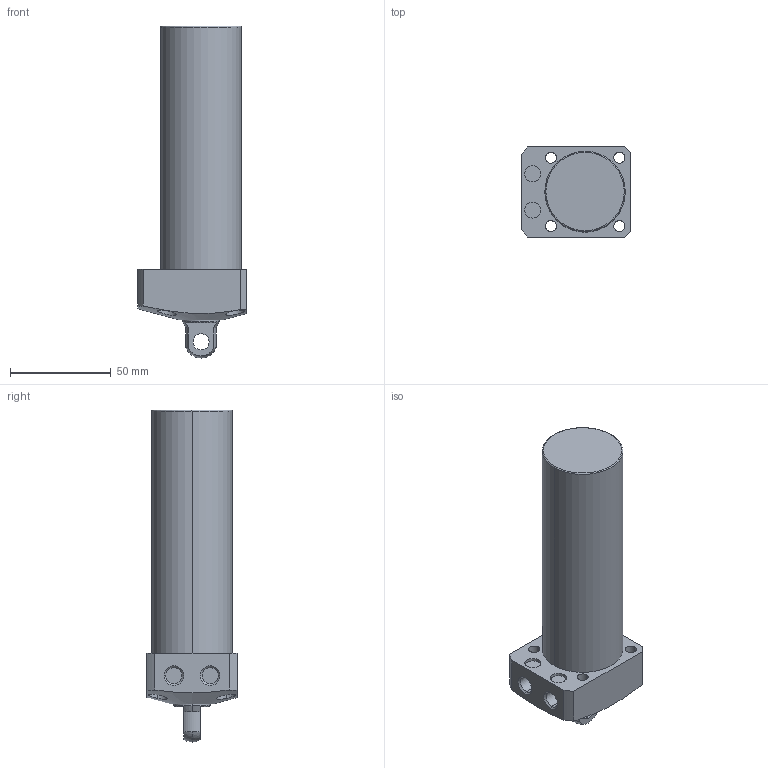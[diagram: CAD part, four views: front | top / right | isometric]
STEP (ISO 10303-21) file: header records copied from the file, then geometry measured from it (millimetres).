
FILE_DESCRIPTION (( 'STEP AP203' ), '1' );
FILE_NAME ('CLL040-CP-095.STEP', '2017-05-17T08:02:19', ( '' ), ( '' ), 'SwSTEP 2.0', 'SolidWorks 2015', '' );
FILE_SCHEMA (( 'CONFIG_CONTROL_DESIGN' ));
Length unit declared in the file: millimetre
Products named in the file (1): CLL040-CP-095
Bounding box: 54 x 45 x 165 mm (x, y, z)
Volume: 203308.4 mm3; surface area: 27218.6 mm2
Topology: 1 solids, 1 shells, 68 faces, 159 edges, 103 vertices
Faces by surface type: cylinder 35, plane 21, cone 8, sphere 2, torus 2
Entity records: 2372 total; most frequent: CARTESIAN_POINT 675, DIRECTION 357, ORIENTED_EDGE 318, EDGE_CURVE 159, AXIS2_PLACEMENT_3D 149, VERTEX_POINT 103, EDGE_LOOP 88, CIRCLE 80
